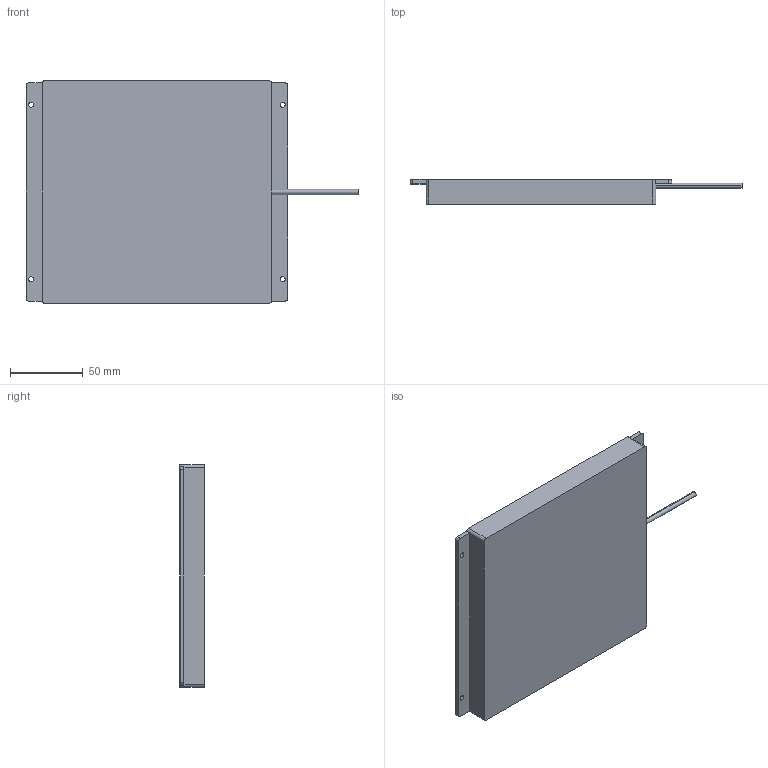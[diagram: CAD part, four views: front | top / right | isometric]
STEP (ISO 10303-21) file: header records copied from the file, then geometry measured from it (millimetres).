
FILE_DESCRIPTION((''),'2;1');
FILE_NAME('P-HFL-150-150-3-DIBAN','2020-11-11T',('Administrator'),(''),'PRO/ENGINEER BY PARAMETRIC TECHNOLOGY CORPORATION, 2010100','PRO/ENGINEER BY PARAMETRIC TECHNOLOGY CORPORATION, 2010100','');
FILE_SCHEMA(('CONFIG_CONTROL_DESIGN'));
Length unit declared in the file: millimetre
Products named in the file (1): P-HFL-150-150-3-DIBAN
Bounding box: 228.21 x 17 x 153 mm (x, y, z)
Volume: 409356 mm3; surface area: 78928.1 mm2
Topology: 1 solids, 1 shells, 62 faces, 176 edges, 116 vertices
Faces by surface type: plane 35, cylinder 25, cone 2
Entity records: 2080 total; most frequent: CARTESIAN_POINT 362, DIRECTION 354, ORIENTED_EDGE 352, EDGE_CURVE 176, AXIS2_PLACEMENT_3D 120, VERTEX_POINT 116, VECTOR 114, LINE 114
